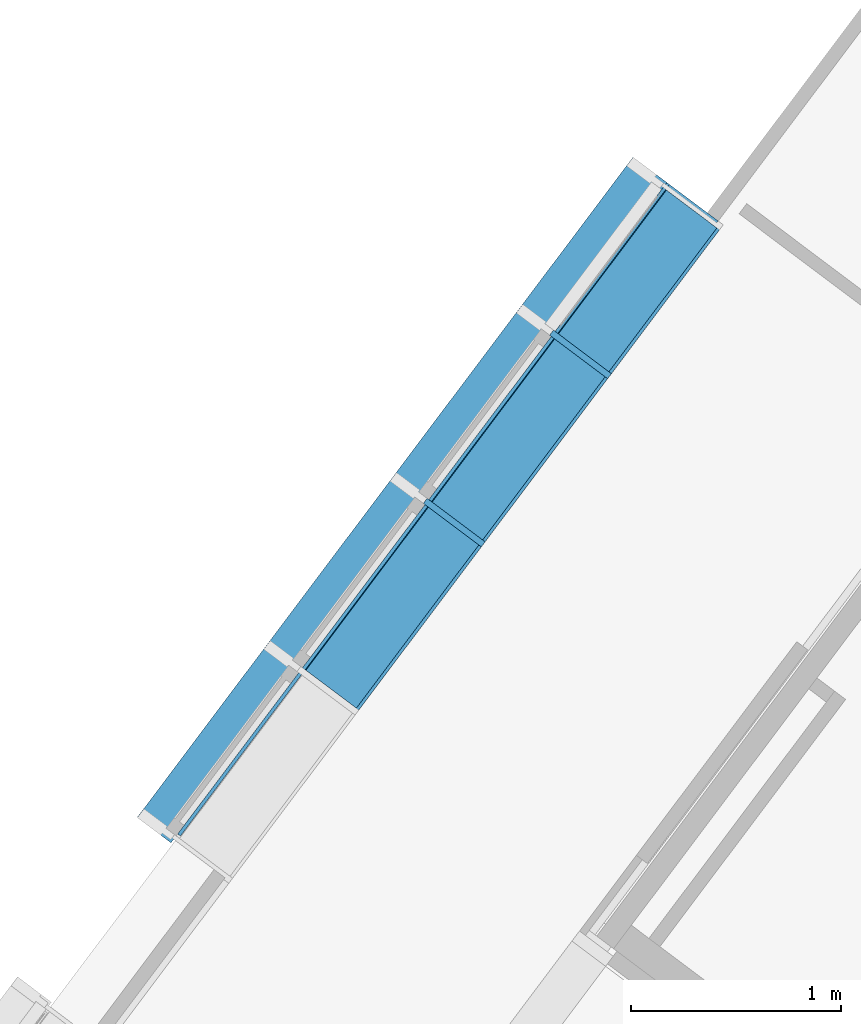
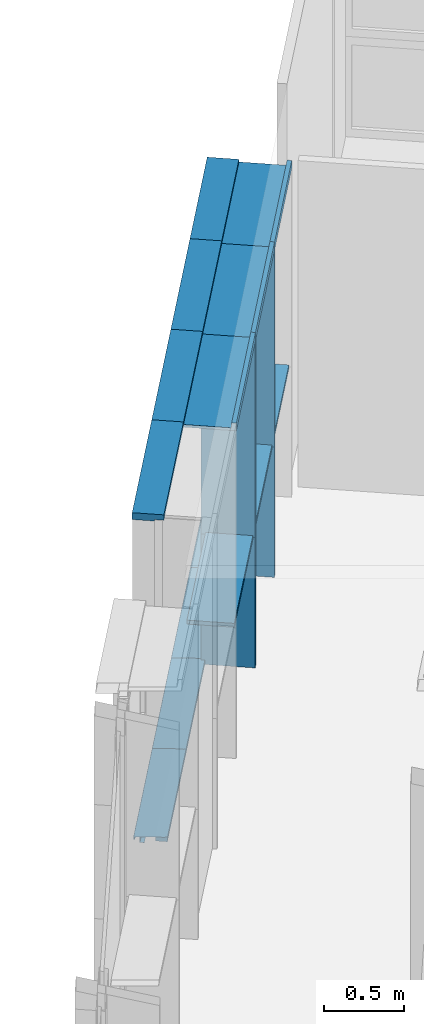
# One storey, part 61 of 243: 18 members, 2 elements without a shape of their own.
"""IFC2X3 building model written with IfcOpenShell, lengths in metres."""

import ifcopenshell
import ifcopenshell.guid

model = None  # the IFC model being written
_history = None  # IfcOwnerHistory: only IFC2X3 demands one
_inside = {}  # id of a spatial element -> (the spatial element, [elements in it])
_under = {}  # id of a project, library or spatial element -> (it, [spatial elements below it])
_declared = {}  # id of a project -> (the project, [libraries it declares])
_typed = {}  # id of a type object -> (the type object, [elements of that type])
_made_of = {}  # id of a material, layer set ... -> (it, [elements and type objects made of it])


def new_model(schema):
    """Start an empty IFC model of exactly this schema.

    Asked for "IFC4X3", IfcOpenShell would pick the latest addendum, in which some entities
    have other attributes; the version numbers below select the first issue.
    IFC2X3 requires an IfcOwnerHistory on every rooted entity: one is made here for all.
    """
    global model, _history
    if schema == "IFC4X3":
        model = ifcopenshell.file(schema_version=(4, 3, 0, 0))
    else:
        model = ifcopenshell.file(schema=schema)
    _inside.clear()
    _under.clear()
    _declared.clear()
    _typed.clear()
    _made_of.clear()
    _history = None
    if model.schema == "IFC2X3":
        org = make("IfcOrganization", Name="unknown")
        user = make(
            "IfcPersonAndOrganization",
            ThePerson=make("IfcPerson", FamilyName="unknown"),
            TheOrganization=org,
        )
        app = make(
            "IfcApplication",
            ApplicationDeveloper=org,
            Version="unknown",
            ApplicationFullName="unknown",
            ApplicationIdentifier="unknown",
        )
        _history = make(
            "IfcOwnerHistory",
            OwningUser=user,
            OwningApplication=app,
            ChangeAction="ADDED",
            CreationDate=0,
        )
    return model


def make(cls, **values):
    """One entity of the class cls with the attributes given. An attribute that is None is left unset."""
    return model.create_entity(
        cls, **{name: value for name, value in values.items() if value is not None}
    )


def entity(cls, *values):
    """Any entity or typed value of the class cls, its attributes in the order of the schema. None: left unset."""
    e = model.create_entity(cls)
    for i, value in enumerate(values):
        if value is not None:
            e[i] = value
    return e


def rooted(cls, **values):
    """An entity with a GlobalId (a new one), such as an element, a storey or a relation."""
    return make(cls, GlobalId=ifcopenshell.guid.new(), OwnerHistory=_history, **values)


def si_unit(unit_type, name, prefix=None):
    """IfcSIUnit, for example si_unit("LENGTHUNIT", "METRE", prefix="MILLI")."""
    return make("IfcSIUnit", UnitType=unit_type, Prefix=prefix, Name=name)


def converted_unit(unit_type, name, factor, base, dimensions=None, offset=None):
    """IfcConversionBasedUnit, such as the inch: factor (a typed value) times the base unit."""
    return make(
        "IfcConversionBasedUnit"
        if offset is None
        else "IfcConversionBasedUnitWithOffset",
        ConversionOffset=offset,
        Dimensions=None
        if dimensions is None
        else entity("IfcDimensionalExponents", *dimensions),
        UnitType=unit_type,
        Name=name,
        ConversionFactor=make(
            "IfcMeasureWithUnit", ValueComponent=factor, UnitComponent=base
        ),
    )


def derived_unit(unit_type, elements):
    """IfcDerivedUnit: a product of units, each with its exponent."""
    return make(
        "IfcDerivedUnit",
        Elements=[
            make("IfcDerivedUnitElement", Unit=unit, Exponent=power)
            for unit, power in elements
        ],
        UnitType=unit_type,
    )


def assignment(units):
    """IfcUnitAssignment: the units of a project."""
    return None if units is None else make("IfcUnitAssignment", Units=units)


def point(xyz):
    """IfcCartesianPoint."""
    return None if xyz is None else make("IfcCartesianPoint", Coordinates=xyz)


def direction(xyz):
    """IfcDirection."""
    return None if xyz is None else make("IfcDirection", DirectionRatios=xyz)


def frame(location, z_axis=None, x_axis=None):
    """IfcAxis2Placement3D, a coordinate frame: its origin and axes. An axis left out is left unset."""
    return make(
        "IfcAxis2Placement3D",
        Location=point(location),
        Axis=direction(z_axis),
        RefDirection=direction(x_axis),
    )


def frame_2d(location, x_axis=None):
    """IfcAxis2Placement2D, a coordinate frame in the plane: its origin and x axis."""
    return make(
        "IfcAxis2Placement2D", Location=point(location), RefDirection=direction(x_axis)
    )


def origin():
    """The frame at (0, 0, 0) with its axes left unset."""
    return frame((0.0, 0.0, 0.0))


def place(relative_to, where):
    """IfcLocalPlacement: puts the frame where relative to a parent placement (None: the world)."""
    return make(
        "IfcLocalPlacement", PlacementRelTo=relative_to, RelativePlacement=where
    )


def context(
    kind, dimensions, precision=None, world=None, true_north=None, identifier=None
):
    """IfcGeometricRepresentationContext, for example the 3D "Model" context."""
    return make(
        "IfcGeometricRepresentationContext",
        ContextIdentifier=identifier,
        ContextType=kind,
        CoordinateSpaceDimension=dimensions,
        Precision=precision,
        WorldCoordinateSystem=world,
        TrueNorth=true_north,
    )


def subcontext(parent, identifier, kind, view, scale=None):
    """IfcGeometricRepresentationSubContext, for example "Body" below "Model"."""
    return make(
        "IfcGeometricRepresentationSubContext",
        ContextIdentifier=identifier,
        ContextType=kind,
        ParentContext=parent,
        TargetScale=scale,
        TargetView=view,
    )


def project(units=None, contexts=None):
    """IfcProject with its units and contexts."""
    return rooted(
        "IfcProject",
        Name="project",
        RepresentationContexts=contexts,
        UnitsInContext=assignment(units),
    )


def spatial(cls, under=None, at=None, **own):
    """A site, building, storey or space (cls), placed at a placement, below another one or the project."""
    s = rooted(cls, ObjectPlacement=at, **own)
    if under is not None:
        _under.setdefault(under.id(), (under, []))[1].append(s)
    return s


def polyline(points):
    """IfcPolyline through the points."""
    return make("IfcPolyline", Points=[point(p) for p in points])


def circle_curve(where, radius):
    """IfcCircle in the frame where."""
    return make("IfcCircle", Position=where, Radius=radius)


def parameter(value):
    """IfcParameterValue: where a trimmed curve begins or ends, as a parameter of its basis curve."""
    return model.create_entity("IfcParameterValue", value)


def trimmed(basis, trim1, trim2, sense, master):
    """IfcTrimmedCurve: the piece of a basis curve between two trims."""
    return make(
        "IfcTrimmedCurve",
        BasisCurve=basis,
        Trim1=trim1,
        Trim2=trim2,
        SenseAgreement=sense,
        MasterRepresentation=master,
    )


def segment(curve, same_sense, transition):
    """IfcCompositeCurveSegment."""
    return make(
        "IfcCompositeCurveSegment",
        Transition=transition,
        SameSense=same_sense,
        ParentCurve=curve,
    )


def composite_curve(segments, self_intersect=None):
    """IfcCompositeCurve: segments joined end to end."""
    return make("IfcCompositeCurve", Segments=segments, SelfIntersect=self_intersect)


def profile(cls, at=None, kind="AREA", **sizes):
    """A parametric profile (cls). Its sizes go by their IFC names, for example OverallWidth=200.0."""
    return make(cls, ProfileType=kind, Position=at, **sizes)


def rectangle(**sizes):
    """IfcRectangleProfileDef."""
    return profile("IfcRectangleProfileDef", **sizes)


def outline(outer, holes=None, kind="AREA"):
    """IfcArbitraryClosedProfileDef: a profile drawn as a closed curve; with holes, ...WithVoids."""
    if holes is None:
        return make("IfcArbitraryClosedProfileDef", ProfileType=kind, OuterCurve=outer)
    return make(
        "IfcArbitraryProfileDefWithVoids",
        ProfileType=kind,
        OuterCurve=outer,
        InnerCurves=holes,
    )


def extrude(swept, where, along, depth):
    """IfcExtrudedAreaSolid: the profile swept, set in the frame where, extruded along a direction by depth."""
    return make(
        "IfcExtrudedAreaSolid",
        SweptArea=swept,
        Position=where,
        ExtrudedDirection=direction(along),
        Depth=depth,
    )


def shape(context_of_items, identifier, shape_type, items):
    """IfcShapeRepresentation: the items that make up one representation, for example the "Body"."""
    return make(
        "IfcShapeRepresentation",
        ContextOfItems=context_of_items,
        RepresentationIdentifier=identifier,
        RepresentationType=shape_type,
        Items=items,
    )


def source(mapping_origin, context_of_items, identifier, shape_type, items):
    """IfcRepresentationMap: a shape defined once, which mapped items show again and again."""
    return make(
        "IfcRepresentationMap",
        MappingOrigin=mapping_origin,
        MappedRepresentation=shape(context_of_items, identifier, shape_type, items),
    )


def transform(
    local_origin,
    x_axis=None,
    y_axis=None,
    z_axis=None,
    scale=None,
    scale2=None,
    scale3=None,
    uniform=True,
):
    """IfcCartesianTransformationOperator3D, or its non-uniform kind. x_axis, y_axis, z_axis: its Axis1, 2, 3."""
    if uniform:
        return make(
            "IfcCartesianTransformationOperator3D",
            Axis1=direction(x_axis),
            Axis2=direction(y_axis),
            LocalOrigin=point(local_origin),
            Scale=scale,
            Axis3=direction(z_axis),
        )
    return make(
        "IfcCartesianTransformationOperator3DnonUniform",
        Axis1=direction(x_axis),
        Axis2=direction(y_axis),
        LocalOrigin=point(local_origin),
        Scale=scale,
        Axis3=direction(z_axis),
        Scale2=scale2,
        Scale3=scale3,
    )


def mapped(mapping_source, mapping_target):
    """IfcMappedItem: shows the shape of a source again, moved by a transform."""
    return make(
        "IfcMappedItem", MappingSource=mapping_source, MappingTarget=mapping_target
    )


def material(Name=None, Category=None):
    """IfcMaterial."""
    return make("IfcMaterial", Name=Name, Category=Category)


def made_of(thing, what):
    """Note that an element or type object is made of a material, layer set ...; save() writes the relation."""
    if what is not None:
        _made_of.setdefault(what.id(), (what, []))[1].append(thing)
    return thing


def type_object(cls, material=None, **own):
    """A type object (cls), such as IfcWallType, which elements share."""
    return made_of(rooted(cls, **own), material)


def type_shapes(of_type, sources):
    """Give a type object the sources (RepresentationMaps) that its elements show as mapped items."""
    of_type.RepresentationMaps = sources


def element(
    cls,
    number,
    at=None,
    inside=None,
    cuts=None,
    type_object=None,
    material=None,
    context=None,
    identifier="Body",
    shape_type=None,
    held_by="IfcProductDefinitionShape",
    body=None,
    shapes=None,
    **own,
):
    """One element of the class cls, such as IfcWall. Its Tag is "e" and its number.

    at: its placement. inside: the storey or other place that contains it. cuts: it is an
    opening in that element (IfcRelVoidsElement). A single representation is given by context,
    identifier, shape_type and body (its items); several are given by shapes. held_by: the class
    of the entity that holds the representations. save() writes the other relations.
    """
    e = rooted(cls, Tag="e%d" % number, ObjectPlacement=at, **own)
    if body is not None:
        shapes = [shape(context, identifier, shape_type, body)]
    if shapes is not None:
        e.Representation = make(held_by, Representations=shapes)
    if inside is not None:
        _inside.setdefault(inside.id(), (inside, []))[1].append(e)
    if cuts is not None:
        rooted(
            "IfcRelVoidsElement", RelatingBuildingElement=cuts, RelatedOpeningElement=e
        )
    if type_object is not None:
        _typed.setdefault(type_object.id(), (type_object, []))[1].append(e)
    return made_of(e, material)


def aggregate(whole, parts):
    """IfcRelAggregates: a whole, such as a stair, and the parts it consists of."""
    return rooted("IfcRelAggregates", RelatingObject=whole, RelatedObjects=parts)


def save(model, path):
    """Write the relations noted so far, then the file.

    IfcRelAggregates (storeys below a building ...), IfcRelContainedInSpatialStructure (elements
    in a storey), IfcRelDefinesByType, IfcRelAssociatesMaterial and IfcRelDeclares: one each for
    every whole, place, type object, material and project.
    """
    for whole, parts in _under.values():
        aggregate(whole, parts)
    for where, things in _inside.values():
        rooted(
            "IfcRelContainedInSpatialStructure",
            RelatedElements=things,
            RelatingStructure=where,
        )
    for kind, things in _typed.values():
        rooted("IfcRelDefinesByType", RelatedObjects=things, RelatingType=kind)
    for what, things in _made_of.values():
        rooted("IfcRelAssociatesMaterial", RelatedObjects=things, RelatingMaterial=what)
    for by, libraries in _declared.values():
        rooted("IfcRelDeclares", RelatingContext=by, RelatedDefinitions=libraries)
    model.write(path)


model = new_model("IFC2X3")

# Units and contexts
model_context = context("Model", 3, precision=1e-05, world=origin(), true_north=direction((6.123031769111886e-17, 1.0)))
body_context = subcontext(model_context, "Body", "Model", "MODEL_VIEW")
ifc_project = project(units=[si_unit("LENGTHUNIT", "METRE"), si_unit("AREAUNIT", "SQUARE_METRE"), si_unit("VOLUMEUNIT", "CUBIC_METRE"), converted_unit("PLANEANGLEUNIT", "DEGREE", entity("IfcRatioMeasure", 0.017453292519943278), si_unit("PLANEANGLEUNIT", "RADIAN"), dimensions=[0, 0, 0, 0, 0, 0, 0]), si_unit("MASSUNIT", "GRAM", prefix="KILO"), derived_unit("MASSDENSITYUNIT", [(si_unit("MASSUNIT", "GRAM", prefix="KILO"), 1), (si_unit("LENGTHUNIT", "METRE"), -3)]), derived_unit("IONCONCENTRATIONUNIT", [(si_unit("MASSUNIT", "GRAM", prefix="KILO"), 1), (si_unit("LENGTHUNIT", "METRE"), -3)]), derived_unit("MOMENTOFINERTIAUNIT", [(si_unit("LENGTHUNIT", "METRE"), 4)]), si_unit("TIMEUNIT", "SECOND"), si_unit("FREQUENCYUNIT", "HERTZ"), si_unit("THERMODYNAMICTEMPERATUREUNIT", "DEGREE_CELSIUS"), derived_unit("THERMALTRANSMITTANCEUNIT", [(si_unit("MASSUNIT", "GRAM", prefix="KILO"), 1), (si_unit("THERMODYNAMICTEMPERATUREUNIT", "KELVIN"), -1), (si_unit("TIMEUNIT", "SECOND"), -3)]), derived_unit("THERMALCONDUCTANCEUNIT", [(si_unit("MASSUNIT", "GRAM", prefix="KILO"), 1), (si_unit("THERMODYNAMICTEMPERATUREUNIT", "KELVIN"), -1), (si_unit("TIMEUNIT", "SECOND"), -3), (si_unit("LENGTHUNIT", "METRE"), 1)]), derived_unit("VOLUMETRICFLOWRATEUNIT", [(si_unit("LENGTHUNIT", "METRE"), 3), (si_unit("TIMEUNIT", "SECOND"), -1)]), derived_unit("MASSFLOWRATEUNIT", [(si_unit("MASSUNIT", "GRAM", prefix="KILO"), 1), (si_unit("TIMEUNIT", "SECOND"), -1)]), derived_unit("ROTATIONALFREQUENCYUNIT", [(si_unit("TIMEUNIT", "SECOND"), -1)]), si_unit("ELECTRICCURRENTUNIT", "AMPERE"), si_unit("ELECTRICVOLTAGEUNIT", "VOLT"), si_unit("POWERUNIT", "WATT"), si_unit("FORCEUNIT", "NEWTON", prefix="KILO"), si_unit("ILLUMINANCEUNIT", "LUX"), si_unit("LUMINOUSFLUXUNIT", "LUMEN"), si_unit("LUMINOUSINTENSITYUNIT", "CANDELA"), derived_unit("USERDEFINED", [(si_unit("MASSUNIT", "GRAM", prefix="KILO"), -1), (si_unit("LENGTHUNIT", "METRE"), -2), (si_unit("TIMEUNIT", "SECOND"), 3), (si_unit("LUMINOUSFLUXUNIT", "LUMEN"), 1)]), derived_unit("USERDEFINED", [(si_unit("MASSUNIT", "GRAM", prefix="KILO"), 1), (si_unit("TIMEUNIT", "SECOND"), -3), (si_unit("LENGTHUNIT", "METRE"), 3), (si_unit("ELECTRICCURRENTUNIT", "AMPERE"), -2)]), derived_unit("SOUNDPOWERUNIT", [(si_unit("MASSUNIT", "GRAM", prefix="KILO"), 1), (si_unit("TIMEUNIT", "SECOND"), -3), (si_unit("LENGTHUNIT", "METRE"), 2)]), derived_unit("SOUNDPRESSUREUNIT", [(si_unit("MASSUNIT", "GRAM", prefix="KILO"), 1), (si_unit("LENGTHUNIT", "METRE"), -1), (si_unit("TIMEUNIT", "SECOND"), -2)]), derived_unit("LINEARVELOCITYUNIT", [(si_unit("LENGTHUNIT", "METRE"), 1), (si_unit("TIMEUNIT", "SECOND"), -1)]), si_unit("PRESSUREUNIT", "PASCAL"), derived_unit("USERDEFINED", [(si_unit("MASSUNIT", "GRAM", prefix="KILO"), 1), (si_unit("LENGTHUNIT", "METRE"), -2), (si_unit("TIMEUNIT", "SECOND"), -2)]), derived_unit("LINEARFORCEUNIT", [(si_unit("MASSUNIT", "GRAM", prefix="KILO"), 1), (si_unit("TIMEUNIT", "SECOND"), -2)]), derived_unit("PLANARFORCEUNIT", [(si_unit("MASSUNIT", "GRAM", prefix="KILO"), 1), (si_unit("LENGTHUNIT", "METRE"), -1), (si_unit("TIMEUNIT", "SECOND"), -2)]), derived_unit("SPECIFICHEATCAPACITYUNIT", [(si_unit("THERMODYNAMICTEMPERATUREUNIT", "KELVIN"), -1), (si_unit("LENGTHUNIT", "METRE"), 2), (si_unit("TIMEUNIT", "SECOND"), -2)]), derived_unit("HEATINGVALUEUNIT", [(si_unit("LENGTHUNIT", "METRE"), 2), (si_unit("TIMEUNIT", "SECOND"), -2)]), derived_unit("VAPORPERMEABILITYUNIT", [(si_unit("LENGTHUNIT", "METRE"), -1), (si_unit("TIMEUNIT", "SECOND"), 1)]), derived_unit("DYNAMICVISCOSITYUNIT", [(si_unit("MASSUNIT", "GRAM", prefix="KILO"), 1), (si_unit("TIMEUNIT", "SECOND"), -1), (si_unit("LENGTHUNIT", "METRE"), -1)]), derived_unit("THERMALEXPANSIONCOEFFICIENTUNIT", [(si_unit("THERMODYNAMICTEMPERATUREUNIT", "KELVIN"), -1)]), derived_unit("MODULUSOFELASTICITYUNIT", [(si_unit("MASSUNIT", "GRAM", prefix="KILO"), 1), (si_unit("LENGTHUNIT", "METRE"), -1), (si_unit("TIMEUNIT", "SECOND"), -2)]), derived_unit("ISOTHERMALMOISTURECAPACITYUNIT", [(si_unit("LENGTHUNIT", "METRE"), 3), (si_unit("MASSUNIT", "GRAM", prefix="KILO"), -1)]), derived_unit("MOISTUREDIFFUSIVITYUNIT", [(si_unit("TIMEUNIT", "SECOND"), -1), (si_unit("LENGTHUNIT", "METRE"), 2)])], contexts=[model_context])

# Site, building, storey
site_placement = place(None, frame((0.0, 0.0, 235.0), z_axis=(0.0, 0.0, 1.0), x_axis=(-0.7996477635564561, 0.6004693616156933, 0.0)))
site = spatial("IfcSite", under=ifc_project, at=site_placement, Name="Default", CompositionType="ELEMENT")
building_placement = place(site_placement, origin())
building = spatial("IfcBuilding", under=site, at=building_placement, CompositionType="ELEMENT")
storey_placement = place(building_placement, origin())
storey = spatial("IfcBuildingStorey", under=building, at=storey_placement, Name="P0- Escola", CompositionType="ELEMENT", Elevation=0.0)

# Curtain wall, members
curtain_wall_type_1 = type_object("IfcCurtainWallType", Name="Muro cortina:MC- INT- k2", PredefinedType="NOTDEFINED")
curtain_wall_1_placement = place(storey_placement, origin())
curtain_wall_1 = element("IfcCurtainWall", 1, at=curtain_wall_1_placement, inside=storey, type_object=curtain_wall_type_1, Name="Muro cortina:MC- INT- k2", ObjectType="Muro cortina:MC- INT- k2")
ifc_material_1 = material(Name="_Fusta massisa- T1")
member_type_1 = type_object("IfcMemberType", Name="Montante rectangular:MC- Fusta- 35x3 cm- Centre", PredefinedType="MULLION", material=ifc_material_1)
shared_shape_1 = source(origin(), body_context, "Body", "SweptSolid", [
    extrude(rectangle(XDim=0.3450000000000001, YDim=0.030000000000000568, at=frame_2d((0.0, -1.3964523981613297e-16), x_axis=(1.0, 0.0))), frame((0.0, -0.07750000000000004, -1.0), z_axis=(0.0, 0.0, 1.0), x_axis=(0.0, -1.0, 0.0)), (0.0, 0.0, 1.0), 1.0),
])
type_shapes(member_type_1, [shared_shape_1])
member_1_placement = place(curtain_wall_1_placement, frame((74.44514768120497, -37.4151917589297, 0.0), z_axis=(0.0, 0.0, -1.0), x_axis=(0.0, -1.0, 0.0)))
member_1 = element("IfcMember", 2, at=member_1_placement, type_object=member_type_1, material=ifc_material_1, Name="Montante rectangular:MC- Fusta- 35x3 cm- Centre", ObjectType="Montante rectangular:MC- Fusta- 35x3 cm- Centre", context=body_context, shape_type="MappedRepresentation", body=[
    mapped(shared_shape_1, transform((0.0, 0.0, 0.0), scale=1.0)),
])
member_2_placement = place(curtain_wall_1_placement, frame((74.44514768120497, -38.4151917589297, 0.0), z_axis=(0.0, 0.0, -1.0), x_axis=(0.0, -1.0, 0.0)))
member_2 = element("IfcMember", 3, at=member_2_placement, type_object=member_type_1, material=ifc_material_1, Name="Montante rectangular:MC- Fusta- 35x3 cm- Centre", ObjectType="Montante rectangular:MC- Fusta- 35x3 cm- Centre", context=body_context, shape_type="MappedRepresentation", body=[
    mapped(shared_shape_1, transform((0.0, 0.0, 0.0), scale=1.0)),
])
member_type_2 = type_object("IfcMemberType", Name="Montante rectangular:MC- Fusta- 35x3 cm- Pati aules- Remat superior", PredefinedType="MULLION", material=ifc_material_1)
shared_shape_2 = source(origin(), body_context, "Body", "SweptSolid", [
    extrude(outline(polyline([(-0.12166666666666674, -0.02666666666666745), (0.21333333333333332, -0.02666666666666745), (0.2133333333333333, -0.006666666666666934), (-0.09166666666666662, -0.006666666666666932), (-0.09166666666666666, 0.03333333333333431), (-0.12166666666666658, 0.03333333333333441), (-0.12166666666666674, -0.02666666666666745)])), frame((-0.033333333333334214, -0.026666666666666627, -1.0), z_axis=(0.0, 0.0, 1.0), x_axis=(0.0, -1.0, 0.0)), (0.0, 0.0, 1.0), 0.9999999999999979),
])
type_shapes(member_type_2, [shared_shape_2])
member_3_placement = place(curtain_wall_1_placement, frame((74.44514768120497, -37.4151917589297, 2.565), z_axis=(0.0, -1.0, 0.0), x_axis=(0.0, 0.0, 1.0)))
member_3 = element("IfcMember", 4, at=member_3_placement, type_object=member_type_2, material=ifc_material_1, Name="Montante rectangular:MC- Fusta- 35x3 cm- Pati aules- Remat superior", ObjectType="Montante rectangular:MC- Fusta- 35x3 cm- Pati aules- Remat superior", context=body_context, shape_type="MappedRepresentation", body=[
    mapped(shared_shape_2, transform((0.0, 0.0, 0.0), scale=1.0)),
])
member_4_placement = place(curtain_wall_1_placement, frame((74.44514768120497, -38.4151917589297, 2.565), z_axis=(0.0, -1.0, 0.0), x_axis=(0.0, 0.0, 1.0)))
member_4 = element("IfcMember", 5, at=member_4_placement, type_object=member_type_2, material=ifc_material_1, Name="Montante rectangular:MC- Fusta- 35x3 cm- Pati aules- Remat superior", ObjectType="Montante rectangular:MC- Fusta- 35x3 cm- Pati aules- Remat superior", context=body_context, shape_type="MappedRepresentation", body=[
    mapped(shared_shape_2, transform((0.0, 0.0, 0.0), scale=1.0)),
])
member_type_3 = type_object("IfcMemberType", Name="Montante rectangular:MC- Fusta- 35x3 cm- Pati aules- Prestatge", PredefinedType="MULLION", material=ifc_material_1)
shared_shape_3 = source(origin(), body_context, "Body", "SweptSolid", [
    extrude(rectangle(XDim=0.30000000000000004, YDim=0.03000000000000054, at=frame_2d((0.0, -1.231653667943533e-16), x_axis=(1.0, 0.0))), frame((0.0, -0.07000000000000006, -0.9699999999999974), z_axis=(0.0, 0.0, 1.0), x_axis=(0.0, -1.0, 0.0)), (0.0, 0.0, 1.0), 0.969999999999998),
])
type_shapes(member_type_3, [shared_shape_3])
member_5_placement = place(curtain_wall_1_placement, frame((74.44514768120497, -37.4001917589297, 1.0), z_axis=(0.0, -1.0, 0.0), x_axis=(0.0, 0.0, 1.0)))
member_5 = element("IfcMember", 6, at=member_5_placement, type_object=member_type_3, material=ifc_material_1, Name="Montante rectangular:MC- Fusta- 35x3 cm- Pati aules- Prestatge", ObjectType="Montante rectangular:MC- Fusta- 35x3 cm- Pati aules- Prestatge", context=body_context, shape_type="MappedRepresentation", body=[
    mapped(shared_shape_3, transform((0.0, 0.0, 0.0), scale=1.0)),
])
member_6_placement = place(curtain_wall_1_placement, frame((74.44514768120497, -38.4001917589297, 1.0), z_axis=(0.0, -1.0, 0.0), x_axis=(0.0, 0.0, 1.0)))
member_6 = element("IfcMember", 7, at=member_6_placement, type_object=member_type_3, material=ifc_material_1, Name="Montante rectangular:MC- Fusta- 35x3 cm- Pati aules- Prestatge", ObjectType="Montante rectangular:MC- Fusta- 35x3 cm- Pati aules- Prestatge", context=body_context, shape_type="MappedRepresentation", body=[
    mapped(shared_shape_3, transform((0.0, 0.0, 0.0), scale=1.0)),
])
member_type_4 = type_object("IfcMemberType", Name="Montante rectangular:MC- Fusta- 35x3 cm- Centre", PredefinedType="MULLION", material=ifc_material_1)
shared_shape_4 = source(origin(), body_context, "Body", "SweptSolid", [
    extrude(rectangle(XDim=0.3450000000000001, YDim=0.030000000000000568, at=frame_2d((0.0, -1.3964523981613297e-16), x_axis=(1.0, 0.0))), frame((0.0, -0.07750000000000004, -1.504999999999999), z_axis=(0.0, 0.0, 1.0), x_axis=(0.0, -1.0, 0.0)), (0.0, 0.0, 1.0), 1.504999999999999),
])
type_shapes(member_type_4, [shared_shape_4])
member_7_placement = place(curtain_wall_1_placement, frame((74.44514768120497, -37.4151917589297, 1.0), z_axis=(0.0, 0.0, -1.0), x_axis=(0.0, -1.0, 0.0)))
member_7 = element("IfcMember", 8, at=member_7_placement, type_object=member_type_4, material=ifc_material_1, Name="Montante rectangular:MC- Fusta- 35x3 cm- Centre", ObjectType="Montante rectangular:MC- Fusta- 35x3 cm- Centre", context=body_context, shape_type="MappedRepresentation", body=[
    mapped(shared_shape_4, transform((0.0, 0.0, 0.0), scale=1.0)),
])
member_8_placement = place(curtain_wall_1_placement, frame((74.44514768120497, -38.4151917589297, 1.0), z_axis=(0.0, 0.0, -1.0), x_axis=(0.0, -1.0, 0.0)))
member_8 = element("IfcMember", 9, at=member_8_placement, type_object=member_type_4, material=ifc_material_1, Name="Montante rectangular:MC- Fusta- 35x3 cm- Centre", ObjectType="Montante rectangular:MC- Fusta- 35x3 cm- Centre", context=body_context, shape_type="MappedRepresentation", body=[
    mapped(shared_shape_4, transform((0.0, 0.0, 0.0), scale=1.0)),
])
member_type_5 = type_object("IfcMemberType", Name="Montante rectangular:MC- Fusta- 35x3 cm- Pati aules- Remat superior", PredefinedType="MULLION", material=ifc_material_1)
shared_shape_5 = source(origin(), body_context, "Body", "SweptSolid", [
    extrude(outline(polyline([(-0.12166666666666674, -0.02666666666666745), (0.21333333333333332, -0.02666666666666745), (0.2133333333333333, -0.006666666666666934), (-0.09166666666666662, -0.006666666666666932), (-0.09166666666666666, 0.03333333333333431), (-0.12166666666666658, 0.03333333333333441), (-0.12166666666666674, -0.02666666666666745)])), frame((-0.033333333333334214, -0.026666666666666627, -0.8999999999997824), z_axis=(0.0, 0.0, 1.0), x_axis=(0.0, -1.0, 0.0)), (0.0, 0.0, 1.0), 0.8999999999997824),
])
type_shapes(member_type_5, [shared_shape_5])
member_9_placement = place(curtain_wall_1_placement, frame((74.44514768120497, -39.31519175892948, 2.565), z_axis=(0.0, -1.0, 0.0), x_axis=(0.0, 0.0, 1.0)))
member_9 = element("IfcMember", 10, at=member_9_placement, type_object=member_type_5, material=ifc_material_1, Name="Montante rectangular:MC- Fusta- 35x3 cm- Pati aules- Remat superior", ObjectType="Montante rectangular:MC- Fusta- 35x3 cm- Pati aules- Remat superior", context=body_context, shape_type="MappedRepresentation", body=[
    mapped(shared_shape_5, transform((0.0, 0.0, 0.0), scale=1.0)),
])
member_type_6 = type_object("IfcMemberType", Name="Montante rectangular:MC- Fusta- 35x3 cm- Pati aules- Prestatge", PredefinedType="MULLION", material=ifc_material_1)
shared_shape_6 = source(origin(), body_context, "Body", "SweptSolid", [
    extrude(rectangle(XDim=0.30000000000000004, YDim=0.03000000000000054, at=frame_2d((0.0, -1.231653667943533e-16), x_axis=(1.0, 0.0))), frame((0.0, -0.07000000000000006, -0.854999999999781), z_axis=(0.0, 0.0, 1.0), x_axis=(0.0, -1.0, 0.0)), (0.0, 0.0, 1.0), 0.8549999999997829),
])
type_shapes(member_type_6, [shared_shape_6])
member_10_placement = place(curtain_wall_1_placement, frame((74.44514768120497, -39.28519175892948, 1.0), z_axis=(0.0, -1.0, 0.0), x_axis=(0.0, 0.0, 1.0)))
member_10 = element("IfcMember", 11, at=member_10_placement, type_object=member_type_6, material=ifc_material_1, Name="Montante rectangular:MC- Fusta- 35x3 cm- Pati aules- Prestatge", ObjectType="Montante rectangular:MC- Fusta- 35x3 cm- Pati aules- Prestatge", context=body_context, shape_type="MappedRepresentation", body=[
    mapped(shared_shape_6, transform((0.0, 0.0, 0.0), scale=1.0)),
])
aggregate(curtain_wall_1, [member_9, member_5, member_3, member_6, member_1, member_7, member_4, member_10, member_2, member_8])

curtain_wall_type_2 = type_object("IfcCurtainWallType", Name="Muro cortina:MC- EXT- MC5", PredefinedType="NOTDEFINED")
curtain_wall_2_placement = place(storey_placement, origin())
curtain_wall_2 = element("IfcCurtainWall", 12, at=curtain_wall_2_placement, inside=storey, type_object=curtain_wall_type_2, Name="Muro cortina:MC- EXT- MC5", ObjectType="Muro cortina:MC- EXT- MC5")
ifc_material_2 = material(Name="_Alumini- T1- Perfil")
member_type_7 = type_object("IfcMemberType", Name="Montante rectangular:MC- Alu- 140x52,5 cm- Fa patis- inferior", PredefinedType="MULLION", material=ifc_material_2)
shared_shape_7 = source(origin(), body_context, "Body", "SweptSolid", [
    extrude(outline(composite_curve([segment(polyline([(-0.144167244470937, -0.025867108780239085), (-0.12786724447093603, -0.02586710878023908)]), True, "CONTINUOUS"), segment(polyline([(-0.12786724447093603, -0.02586710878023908), (-0.12786724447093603, -0.023167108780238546)]), True, "CONTINUOUS"), segment(polyline([(-0.12786724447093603, -0.023167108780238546), (-0.0678672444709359, -0.023167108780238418)]), True, "CONTINUOUS"), segment(polyline([(-0.0678672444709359, -0.023167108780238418), (0.07031215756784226, -0.010722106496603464)]), True, "CONTINUOUS"), segment(trimmed(circle_curve(frame_2d((0.07013275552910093, -0.008730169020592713), x_axis=(0.0897010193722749, -0.9959687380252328)), 0.0019999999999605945), [parameter(0.0)], [parameter(84.8535928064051)], True, "PARAMETER"), True, "CONTINUOUS"), segment(polyline([(0.07213275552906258, -0.008730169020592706), (0.07213275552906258, 0.006266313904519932)]), True, "CONTINUOUS"), segment(trimmed(circle_curve(frame_2d((0.07013275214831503, 0.006266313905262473), x_axis=(1.0, 0.0)), 0.0020000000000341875), [parameter(0.0)], [parameter(90.00000002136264)], True, "PARAMETER"), True, "CONTINUOUS"), segment(polyline([(0.070132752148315, 0.008266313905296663), (0.06213275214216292, 0.008266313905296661)]), True, "CONTINUOUS"), segment(polyline([(0.06213275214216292, 0.008266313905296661), (0.06213275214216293, 0.006266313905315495)]), True, "CONTINUOUS"), segment(polyline([(0.06213275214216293, 0.006266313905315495), (0.06963275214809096, 0.006266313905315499)]), True, "CONTINUOUS"), segment(trimmed(circle_curve(frame_2d((0.06963275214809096, 0.005766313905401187), x_axis=(0.0, 1.0)), 0.0004999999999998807), [parameter(269.9999999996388)], [parameter(0.0)], True, "PARAMETER"), False, "CONTINUOUS"), segment(polyline([(0.07013275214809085, 0.005766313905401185), (0.07013275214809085, -0.008730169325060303)]), True, "CONTINUOUS"), segment(polyline([(0.07013275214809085, -0.008730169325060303), (0.03213275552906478, -0.012152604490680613)]), True, "CONTINUOUS"), segment(polyline([(0.03213275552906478, -0.0121526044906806), (0.03213275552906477, 0.029132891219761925)]), True, "CONTINUOUS"), segment(polyline([(0.03213275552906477, 0.029132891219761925), (0.0021327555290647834, 0.029132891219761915)]), True, "CONTINUOUS"), segment(polyline([(0.0021327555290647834, 0.029132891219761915), (0.0021327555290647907, 0.02713289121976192)]), True, "CONTINUOUS"), segment(polyline([(0.0021327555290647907, 0.02713289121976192), (0.03013275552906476, 0.02713289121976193)]), True, "CONTINUOUS"), segment(polyline([(0.03013275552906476, 0.027132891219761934), (0.03013275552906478, -0.012332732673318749)]), True, "CONTINUOUS"), segment(polyline([(0.03013275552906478, -0.012332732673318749), (-0.06786724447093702, -0.021159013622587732)]), True, "CONTINUOUS"), segment(polyline([(-0.06786724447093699, -0.02115901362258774), (-0.067867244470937, 0.009132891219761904)]), True, "CONTINUOUS"), segment(polyline([(-0.06786724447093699, 0.009132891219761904), (-0.14416724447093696, 0.009132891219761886)]), True, "CONTINUOUS"), segment(polyline([(-0.14416724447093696, 0.009132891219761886), (-0.144167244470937, -0.025867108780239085)]), True, "CONTINUOUS")], self_intersect=False)), frame((-0.029132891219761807, -0.06786724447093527, -0.9737499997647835), z_axis=(0.0, 0.0, 1.0), x_axis=(0.0, -1.0, 0.0)), (0.0, 0.0, 1.0), 0.9737499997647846),
])
type_shapes(member_type_7, [shared_shape_7])
member_11_placement = place(curtain_wall_2_placement, frame((74.74514768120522, -35.441441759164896, -0.02), z_axis=(0.0, 1.0, 0.0), x_axis=(0.0, 0.0, -1.0)))
member_11 = element("IfcMember", 13, at=member_11_placement, type_object=member_type_7, material=ifc_material_2, Name="Montante rectangular:MC- Alu- 140x52,5 cm- Fa patis- inferior", ObjectType="Montante rectangular:MC- Alu- 140x52,5 cm- Fa patis- inferior", context=body_context, shape_type="MappedRepresentation", body=[
    mapped(shared_shape_7, transform((0.0, 0.0, 0.0), scale=1.0)),
])
member_type_8 = type_object("IfcMemberType", Name="Montante rectangular:MC- Alu- 140x52,5 cm- Fa patis- Superior", PredefinedType="MULLION", material=ifc_material_2)
shared_shape_8 = source(origin(), body_context, "Body", "SweptSolid", [
    extrude(outline(polyline([(-0.026333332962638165, -0.021249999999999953), (0.11366666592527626, -0.021249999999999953), (0.11366666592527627, 0.031250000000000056), (-0.08733333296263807, 0.03125000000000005), (-0.0873333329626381, -0.010000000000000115), (-0.026333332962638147, -0.010000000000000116), (-0.026333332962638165, -0.021249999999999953)])), frame((-0.031250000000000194, -0.02733333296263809, -1.0), z_axis=(0.0, 0.0, 1.0), x_axis=(0.0, -1.0, 0.0)), (0.0, 0.0, 1.0), 0.9999999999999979),
])
type_shapes(member_type_8, [shared_shape_8])
member_12_placement = place(curtain_wall_2_placement, frame((74.74514768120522, -37.415191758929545, 2.545), z_axis=(0.0, -1.0, 0.0), x_axis=(0.0, 0.0, 1.0)))
member_12 = element("IfcMember", 14, at=member_12_placement, type_object=member_type_8, material=ifc_material_2, Name="Montante rectangular:MC- Alu- 140x52,5 cm- Fa patis- Superior", ObjectType="Montante rectangular:MC- Alu- 140x52,5 cm- Fa patis- Superior", context=body_context, shape_type="MappedRepresentation", body=[
    mapped(shared_shape_8, transform((0.0, 0.0, 0.0), scale=1.0)),
])
member_13_placement = place(curtain_wall_2_placement, frame((74.74514768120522, -38.415191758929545, 2.545), z_axis=(0.0, -1.0, 0.0), x_axis=(0.0, 0.0, 1.0)))
member_13 = element("IfcMember", 15, at=member_13_placement, type_object=member_type_8, material=ifc_material_2, Name="Montante rectangular:MC- Alu- 140x52,5 cm- Fa patis- Superior", ObjectType="Montante rectangular:MC- Alu- 140x52,5 cm- Fa patis- Superior", context=body_context, shape_type="MappedRepresentation", body=[
    mapped(shared_shape_8, transform((0.0, 0.0, 0.0), scale=1.0)),
])
member_type_9 = type_object("IfcMemberType", Name="Montante rectangular:MC- Alu- 140x52,5 cm- Fa patis- inferior", PredefinedType="MULLION", material=ifc_material_2)
shared_shape_9 = source(origin(), body_context, "Body", "SweptSolid", [
    extrude(outline(composite_curve([segment(polyline([(-0.144167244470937, -0.02586710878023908), (-0.12786724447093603, -0.025867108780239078)]), True, "CONTINUOUS"), segment(polyline([(-0.12786724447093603, -0.025867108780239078), (-0.12786724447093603, -0.023167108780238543)]), True, "CONTINUOUS"), segment(polyline([(-0.12786724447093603, -0.023167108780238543), (-0.0678672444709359, -0.023167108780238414)]), True, "CONTINUOUS"), segment(polyline([(-0.0678672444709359, -0.023167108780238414), (0.07031215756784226, -0.01072210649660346)]), True, "CONTINUOUS"), segment(trimmed(circle_curve(frame_2d((0.07013275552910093, -0.00873016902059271), x_axis=(0.0897010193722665, -0.9959687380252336)), 0.0019999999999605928), [parameter(0.0)], [parameter(84.85359280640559)], True, "PARAMETER"), True, "CONTINUOUS"), segment(polyline([(0.07213275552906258, -0.008730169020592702), (0.07213275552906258, 0.006266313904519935)]), True, "CONTINUOUS"), segment(trimmed(circle_curve(frame_2d((0.070132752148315, 0.0062663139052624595), x_axis=(1.0, 0.0)), 0.0020000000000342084), [parameter(0.0)], [parameter(90.00000002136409)], True, "PARAMETER"), True, "CONTINUOUS"), segment(polyline([(0.070132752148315, 0.008266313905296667), (0.06213275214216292, 0.008266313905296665)]), True, "CONTINUOUS"), segment(polyline([(0.06213275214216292, 0.008266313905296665), (0.06213275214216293, 0.006266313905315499)]), True, "CONTINUOUS"), segment(polyline([(0.06213275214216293, 0.006266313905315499), (0.06963275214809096, 0.006266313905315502)]), True, "CONTINUOUS"), segment(trimmed(circle_curve(frame_2d((0.06963275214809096, 0.005766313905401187), x_axis=(0.0, 1.0)), 0.000499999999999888), [parameter(269.9999999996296)], [parameter(0.0)], True, "PARAMETER"), False, "CONTINUOUS"), segment(polyline([(0.07013275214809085, 0.005766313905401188), (0.07013275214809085, -0.0087301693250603)]), True, "CONTINUOUS"), segment(polyline([(0.07013275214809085, -0.0087301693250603), (0.03213275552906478, -0.01215260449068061)]), True, "CONTINUOUS"), segment(polyline([(0.03213275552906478, -0.012152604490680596), (0.03213275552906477, 0.02913289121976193)]), True, "CONTINUOUS"), segment(polyline([(0.03213275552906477, 0.02913289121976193), (0.0021327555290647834, 0.029132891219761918)]), True, "CONTINUOUS"), segment(polyline([(0.0021327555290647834, 0.029132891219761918), (0.0021327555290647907, 0.027132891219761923)]), True, "CONTINUOUS"), segment(polyline([(0.0021327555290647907, 0.027132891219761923), (0.03013275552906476, 0.027132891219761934)]), True, "CONTINUOUS"), segment(polyline([(0.03013275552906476, 0.027132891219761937), (0.03013275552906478, -0.012332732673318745)]), True, "CONTINUOUS"), segment(polyline([(0.03013275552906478, -0.012332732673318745), (-0.06786724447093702, -0.02115901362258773)]), True, "CONTINUOUS"), segment(polyline([(-0.06786724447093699, -0.021159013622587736), (-0.067867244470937, 0.009132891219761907)]), True, "CONTINUOUS"), segment(polyline([(-0.06786724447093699, 0.009132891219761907), (-0.14416724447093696, 0.00913289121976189)]), True, "CONTINUOUS"), segment(polyline([(-0.14416724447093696, 0.00913289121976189), (-0.144167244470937, -0.02586710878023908)]), True, "CONTINUOUS")], self_intersect=False)), frame((-0.02913289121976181, -0.06786724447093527, -1.0), z_axis=(0.0, 0.0, 1.0), x_axis=(0.0, -1.0, 0.0)), (0.0, 0.0, 1.0), 1.0000000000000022),
])
type_shapes(member_type_9, [shared_shape_9])
member_14_placement = place(curtain_wall_2_placement, frame((74.74514768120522, -36.415191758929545, -0.02), z_axis=(0.0, 1.0, 0.0), x_axis=(0.0, 0.0, -1.0)))
member_14 = element("IfcMember", 16, at=member_14_placement, type_object=member_type_9, material=ifc_material_2, Name="Montante rectangular:MC- Alu- 140x52,5 cm- Fa patis- inferior", ObjectType="Montante rectangular:MC- Alu- 140x52,5 cm- Fa patis- inferior", context=body_context, shape_type="MappedRepresentation", body=[
    mapped(shared_shape_9, transform((0.0, 0.0, 0.0), scale=1.0)),
])
member_15_placement = place(curtain_wall_2_placement, frame((74.74514768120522, -37.415191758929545, -0.02), z_axis=(0.0, 1.0, 0.0), x_axis=(0.0, 0.0, -1.0)))
member_15 = element("IfcMember", 17, at=member_15_placement, type_object=member_type_9, material=ifc_material_2, Name="Montante rectangular:MC- Alu- 140x52,5 cm- Fa patis- inferior", ObjectType="Montante rectangular:MC- Alu- 140x52,5 cm- Fa patis- inferior", context=body_context, shape_type="MappedRepresentation", body=[
    mapped(shared_shape_9, transform((0.0, 0.0, 0.0), scale=1.0)),
])
member_type_10 = type_object("IfcMemberType", Name="Montante rectangular:MC- Alu- 140x52,5 cm- Fa patis- Superior", PredefinedType="MULLION", material=ifc_material_2)
shared_shape_10 = source(origin(), body_context, "Body", "SweptSolid", [
    extrude(outline(polyline([(-0.026333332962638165, -0.021249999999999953), (0.11366666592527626, -0.021249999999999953), (0.11366666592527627, 0.031250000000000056), (-0.08733333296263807, 0.03125000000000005), (-0.0873333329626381, -0.010000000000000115), (-0.026333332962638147, -0.010000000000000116), (-0.026333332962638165, -0.021249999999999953)])), frame((-0.031250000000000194, -0.02733333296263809, -0.8999999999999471), z_axis=(0.0, 0.0, 1.0), x_axis=(0.0, -1.0, 0.0)), (0.0, 0.0, 1.0), 0.8999999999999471),
])
type_shapes(member_type_10, [shared_shape_10])
member_16_placement = place(curtain_wall_2_placement, frame((74.74514768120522, -39.31519175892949, 2.545), z_axis=(0.0, -1.0, 0.0), x_axis=(0.0, 0.0, 1.0)))
member_16 = element("IfcMember", 18, at=member_16_placement, type_object=member_type_10, material=ifc_material_2, Name="Montante rectangular:MC- Alu- 140x52,5 cm- Fa patis- Superior", ObjectType="Montante rectangular:MC- Alu- 140x52,5 cm- Fa patis- Superior", context=body_context, shape_type="MappedRepresentation", body=[
    mapped(shared_shape_10, transform((0.0, 0.0, 0.0), scale=1.0)),
])
member_type_11 = type_object("IfcMemberType", Name="Montante rectangular:MC- Alu- 140x52,5 cm- Fa patis- Superior", PredefinedType="MULLION", material=ifc_material_2)
shared_shape_11 = source(origin(), body_context, "Body", "SweptSolid", [
    extrude(outline(polyline([(-0.026333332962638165, -0.021249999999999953), (0.11366666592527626, -0.021249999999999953), (0.11366666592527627, 0.031250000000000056), (-0.08733333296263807, 0.03125000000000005), (-0.0873333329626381, -0.010000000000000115), (-0.026333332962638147, -0.010000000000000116), (-0.026333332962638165, -0.021249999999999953)])), frame((-0.031250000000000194, -0.02733333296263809, -1.0262500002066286), z_axis=(0.0, 0.0, 1.0), x_axis=(0.0, -1.0, 0.0)), (0.0, 0.0, 1.0), 1.0262500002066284),
])
type_shapes(member_type_11, [shared_shape_11])
member_17_placement = place(curtain_wall_2_placement, frame((74.74514768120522, -36.415191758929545, 2.545), z_axis=(0.0, -1.0, 0.0), x_axis=(0.0, 0.0, 1.0)))
member_17 = element("IfcMember", 19, at=member_17_placement, type_object=member_type_11, material=ifc_material_2, Name="Montante rectangular:MC- Alu- 140x52,5 cm- Fa patis- Superior", ObjectType="Montante rectangular:MC- Alu- 140x52,5 cm- Fa patis- Superior", context=body_context, shape_type="MappedRepresentation", body=[
    mapped(shared_shape_11, transform((0.0, 0.0, 0.0), scale=1.0)),
])
member_type_12 = type_object("IfcMemberType", Name="Montante rectangular:MC- Alu- 140x52,5 cm- Fa patis- inferior", PredefinedType="MULLION", material=ifc_material_2)
shared_shape_12 = source(origin(), body_context, "Body", "SweptSolid", [
    extrude(outline(composite_curve([segment(polyline([(-0.144167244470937, -0.025867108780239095), (-0.12786724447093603, -0.025867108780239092)]), True, "CONTINUOUS"), segment(polyline([(-0.12786724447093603, -0.025867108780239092), (-0.12786724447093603, -0.023167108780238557)]), True, "CONTINUOUS"), segment(polyline([(-0.12786724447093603, -0.023167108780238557), (-0.0678672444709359, -0.023167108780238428)]), True, "CONTINUOUS"), segment(polyline([(-0.0678672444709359, -0.023167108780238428), (0.07031215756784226, -0.010722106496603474)]), True, "CONTINUOUS"), segment(trimmed(circle_curve(frame_2d((0.07013275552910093, -0.00873016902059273), x_axis=(0.08970101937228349, -0.9959687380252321)), 0.001999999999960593), [parameter(0.0)], [parameter(84.85359280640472)], True, "PARAMETER"), True, "CONTINUOUS"), segment(polyline([(0.07213275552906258, -0.008730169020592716), (0.07213275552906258, 0.0062663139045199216)]), True, "CONTINUOUS"), segment(trimmed(circle_curve(frame_2d((0.070132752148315, 0.006266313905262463), x_axis=(1.0, 0.0)), 0.0020000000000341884), [parameter(0.0)], [parameter(90.00000002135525)], True, "PARAMETER"), True, "CONTINUOUS"), segment(polyline([(0.070132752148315, 0.008266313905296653), (0.06213275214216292, 0.008266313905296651)]), True, "CONTINUOUS"), segment(polyline([(0.06213275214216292, 0.008266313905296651), (0.06213275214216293, 0.006266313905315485)]), True, "CONTINUOUS"), segment(polyline([(0.06213275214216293, 0.006266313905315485), (0.06963275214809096, 0.006266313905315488)]), True, "CONTINUOUS"), segment(trimmed(circle_curve(frame_2d((0.06963275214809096, 0.005766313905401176), x_axis=(0.0, 1.0)), 0.0004999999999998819), [parameter(269.99999999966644)], [parameter(0.0)], True, "PARAMETER"), False, "CONTINUOUS"), segment(polyline([(0.07013275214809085, 0.0057663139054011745), (0.07013275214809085, -0.008730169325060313)]), True, "CONTINUOUS"), segment(polyline([(0.07013275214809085, -0.008730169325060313), (0.03213275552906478, -0.012152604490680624)]), True, "CONTINUOUS"), segment(polyline([(0.03213275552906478, -0.01215260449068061), (0.03213275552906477, 0.029132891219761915)]), True, "CONTINUOUS"), segment(polyline([(0.03213275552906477, 0.029132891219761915), (0.0021327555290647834, 0.029132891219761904)]), True, "CONTINUOUS"), segment(polyline([(0.0021327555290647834, 0.029132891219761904), (0.0021327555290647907, 0.02713289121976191)]), True, "CONTINUOUS"), segment(polyline([(0.0021327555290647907, 0.02713289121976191), (0.03013275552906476, 0.02713289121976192)]), True, "CONTINUOUS"), segment(polyline([(0.03013275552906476, 0.027132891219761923), (0.03013275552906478, -0.01233273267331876)]), True, "CONTINUOUS"), segment(polyline([(0.03013275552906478, -0.01233273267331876), (-0.06786724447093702, -0.021159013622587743)]), True, "CONTINUOUS"), segment(polyline([(-0.06786724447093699, -0.02115901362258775), (-0.067867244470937, 0.009132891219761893)]), True, "CONTINUOUS"), segment(polyline([(-0.06786724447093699, 0.009132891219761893), (-0.14416724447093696, 0.009132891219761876)]), True, "CONTINUOUS"), segment(polyline([(-0.14416724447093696, 0.009132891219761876), (-0.14416724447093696, -0.025867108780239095)]), True, "CONTINUOUS")], self_intersect=False)), frame((-0.029132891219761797, -0.06786724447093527, -0.8999999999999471), z_axis=(0.0, 0.0, 1.0), x_axis=(0.0, -1.0, 0.0)), (0.0, 0.0, 1.0), 0.8999999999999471),
])
type_shapes(member_type_12, [shared_shape_12])
member_18_placement = place(curtain_wall_2_placement, frame((74.74514768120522, -38.415191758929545, -0.02), z_axis=(0.0, 1.0, 0.0), x_axis=(0.0, 0.0, -1.0)))
member_18 = element("IfcMember", 20, at=member_18_placement, type_object=member_type_12, material=ifc_material_2, Name="Montante rectangular:MC- Alu- 140x52,5 cm- Fa patis- inferior", ObjectType="Montante rectangular:MC- Alu- 140x52,5 cm- Fa patis- inferior", context=body_context, shape_type="MappedRepresentation", body=[
    mapped(shared_shape_12, transform((0.0, 0.0, 0.0), scale=1.0)),
])
aggregate(curtain_wall_2, [member_16, member_11, member_17, member_14, member_12, member_15, member_13, member_18])

save(model, "model.ifc")
